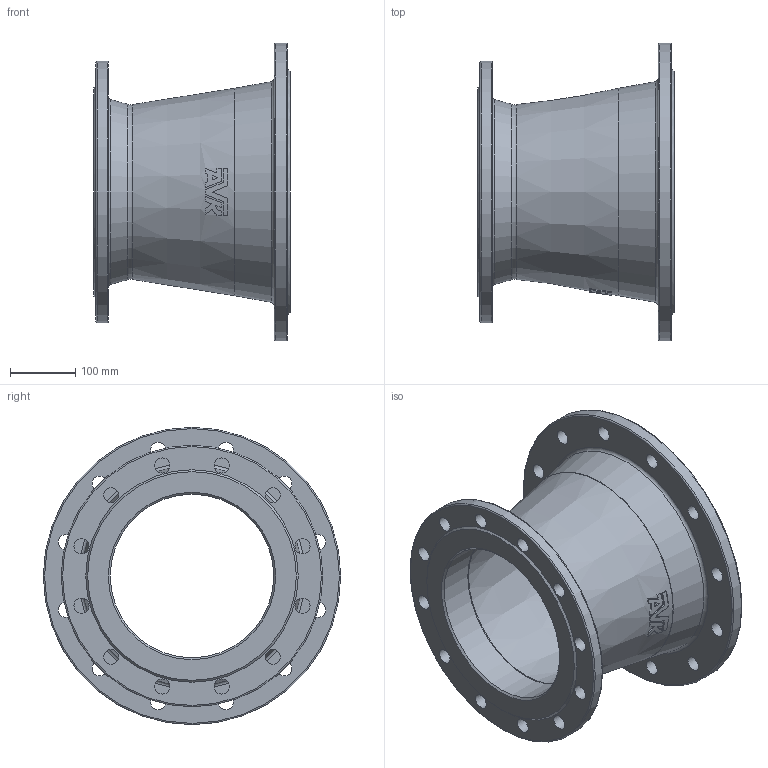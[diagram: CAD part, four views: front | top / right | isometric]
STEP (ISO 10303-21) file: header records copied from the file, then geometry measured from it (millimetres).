
FILE_DESCRIPTION (( 'STEP AP203' ), '1' );
FILE_NAME ('O_712_2210_DN300_DN250_0X_REV01.step', '2024-08-08T05:54:36', ( '' ), ( '' ), 'SwSTEP 2.0', 'SolidWorks 2022', '' );
FILE_SCHEMA (( 'CONFIG_CONTROL_DESIGN' ));
Length unit declared in the file: millimetre
Products named in the file (1): O_712_2210_DN300_DN250_0X_REV01
Bounding box: 300 x 455 x 455 mm (x, y, z)
Volume: 5773914 mm3; surface area: 868767.7 mm2
Topology: 1 solids, 1 shells, 93 faces, 284 edges, 189 vertices
Faces by surface type: plane 41, cylinder 30, cone 12, torus 10
Full cylindrical faces by diameter (mm): 23 x24, 250 x1, 300 x1, 400 x1, 455 x1
Entity records: 3136 total; most frequent: CARTESIAN_POINT 815, DIRECTION 463, ORIENTED_EDGE 420, AXIS2_PLACEMENT_3D 213, EDGE_CURVE 210, EDGE_LOOP 185, VERTEX_POINT 161, FACE_OUTER_BOUND 131
